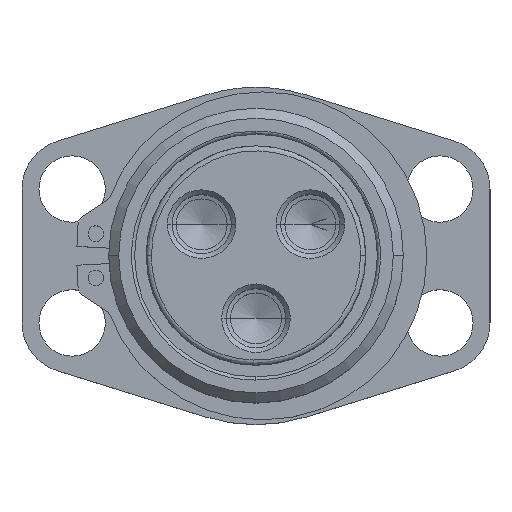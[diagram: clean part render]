
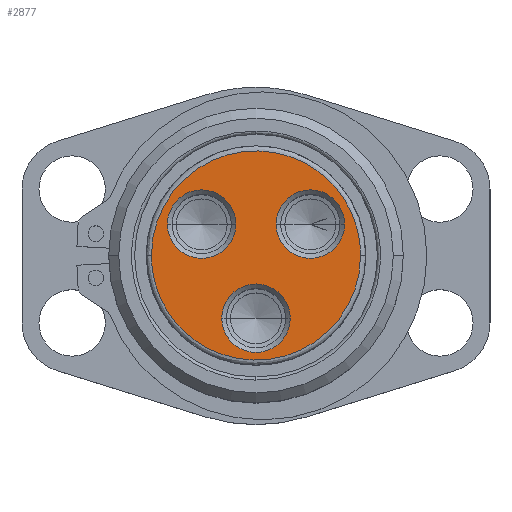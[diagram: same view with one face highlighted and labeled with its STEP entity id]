
A CAD part, top view. The second image highlights one B-rep face of the part: STEP entity #2877.
In plain terms, the highlighted planar face has unit normal (0, 0, 1).
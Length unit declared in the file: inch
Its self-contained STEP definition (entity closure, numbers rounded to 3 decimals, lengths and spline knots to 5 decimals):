
#8 = CARTESIAN_POINT ( 'NONE',  ( -0.43301, 0.25, 0. ) ) ;
#47 = DIRECTION ( 'NONE',  ( 0., 0., -1. ) ) ;
#83 = CARTESIAN_POINT ( 'NONE',  ( 0., 0., 0. ) ) ;
#107 = AXIS2_PLACEMENT_3D ( 'NONE', #2507, #4762, #241 ) ;
#140 = PLANE ( 'NONE',  #2765 ) ;
#149 = CARTESIAN_POINT ( 'NONE',  ( 0.43301, 0.25, 0. ) ) ;
#241 = DIRECTION ( 'NONE',  ( 1., 0., 0. ) ) ;
#276 = CIRCLE ( 'NONE', #1835, 0.2731 ) ;
#355 = CARTESIAN_POINT ( 'NONE',  ( -0.8341, 0., 0. ) ) ;
#385 = CARTESIAN_POINT ( 'NONE',  ( 0.8341, -1.6682, 0. ) ) ;
#433 = ORIENTED_EDGE ( 'NONE', *, *, #509, .T. ) ;
#451 = AXIS2_PLACEMENT_3D ( 'NONE', #3121, #1986, #4619 ) ;
#453 = CARTESIAN_POINT ( 'NONE',  ( -0.15991, 0.25, 0. ) ) ;
#479 = ORIENTED_EDGE ( 'NONE', *, *, #4875, .T. ) ;
#489 = VERTEX_POINT ( 'NONE', #2667 ) ;
#493 = CIRCLE ( 'NONE', #3787, 0.2731 ) ;
#509 = EDGE_CURVE ( 'NONE', #1667, #4034, #493, .T. ) ;
#563 = ORIENTED_EDGE ( 'NONE', *, *, #2493, .F. ) ;
#586 = CARTESIAN_POINT ( 'NONE',  ( -0.43301, 0.25, 0. ) ) ;
#592 = CARTESIAN_POINT ( 'NONE',  ( 0.70611, 0.25, 0. ) ) ;
#737 = ORIENTED_EDGE ( 'NONE', *, *, #3971, .T. ) ;
#753 = VERTEX_POINT ( 'NONE', #592 ) ;
#799 = CIRCLE ( 'NONE', #107, 0.2731 ) ;
#967 = FACE_BOUND ( 'NONE', #2231, .T. ) ;
#1424 = EDGE_CURVE ( 'NONE', #4077, #2606, #3610, .T. ) ;
#1619 = DIRECTION ( 'NONE',  ( 1., 0., 0. ) ) ;
#1645 = EDGE_CURVE ( 'NONE', #2948, #3692, #1706, .T. ) ;
#1649 = CARTESIAN_POINT ( 'NONE',  ( 0.8341, 0., 0. ) ) ;
#1667 = VERTEX_POINT ( 'NONE', #2405 ) ;
#1706 =( BOUNDED_CURVE ( )  B_SPLINE_CURVE ( 3, ( #3875, #4300, #4280, #4627 ),
 .UNSPECIFIED., .F., .F. ) 
 B_SPLINE_CURVE_WITH_KNOTS ( ( 4, 4 ),
 ( 0., 1. ),
 .UNSPECIFIED. ) 
 CURVE ( )  GEOMETRIC_REPRESENTATION_ITEM ( )  RATIONAL_B_SPLINE_CURVE ( ( 1., 0.333, 0.333, 1. ) ) 
 REPRESENTATION_ITEM ( '' )  );
#1718 = CARTESIAN_POINT ( 'NONE',  ( -0.2731, -0.5, 0. ) ) ;
#1777 = EDGE_LOOP ( 'NONE', ( #2728, #563 ) ) ;
#1835 = AXIS2_PLACEMENT_3D ( 'NONE', #149, #2792, #3535 ) ;
#1913 = CIRCLE ( 'NONE', #4895, 0.2731 ) ;
#1926 = FACE_BOUND ( 'NONE', #4864, .T. ) ;
#1986 = DIRECTION ( 'NONE',  ( 0., 0., -1. ) ) ;
#2231 = EDGE_LOOP ( 'NONE', ( #3245, #433 ) ) ;
#2405 = CARTESIAN_POINT ( 'NONE',  ( -0.70611, 0.25, 0. ) ) ;
#2493 = EDGE_CURVE ( 'NONE', #3692, #2948, #3687, .T. ) ;
#2507 = CARTESIAN_POINT ( 'NONE',  ( 0.43301, 0.25, 0. ) ) ;
#2606 = VERTEX_POINT ( 'NONE', #1718 ) ;
#2624 = CARTESIAN_POINT ( 'NONE',  ( -0.8341, -1.6682, 0. ) ) ;
#2667 = CARTESIAN_POINT ( 'NONE',  ( 0.15991, 0.25, 0. ) ) ;
#2728 = ORIENTED_EDGE ( 'NONE', *, *, #1645, .F. ) ;
#2765 = AXIS2_PLACEMENT_3D ( 'NONE', #83, #4610, #1619 ) ;
#2792 = DIRECTION ( 'NONE',  ( 0., 0., -1. ) ) ;
#2877 = ADVANCED_FACE ( 'NONE', ( #3511, #4056, #1926, #967 ), #140, .T. ) ;
#2948 = VERTEX_POINT ( 'NONE', #3991 ) ;
#3121 = CARTESIAN_POINT ( 'NONE',  ( 0., -0.5, 0. ) ) ;
#3126 = AXIS2_PLACEMENT_3D ( 'NONE', #586, #4060, #4726 ) ;
#3245 = ORIENTED_EDGE ( 'NONE', *, *, #4222, .T. ) ;
#3274 = CIRCLE ( 'NONE', #3126, 0.2731 ) ;
#3400 = CARTESIAN_POINT ( 'NONE',  ( 0.8341, 0., 0. ) ) ;
#3511 = FACE_OUTER_BOUND ( 'NONE', #1777, .T. ) ;
#3535 = DIRECTION ( 'NONE',  ( 1., 0., 0. ) ) ;
#3588 = CARTESIAN_POINT ( 'NONE',  ( 0.2731, -0.5, 0. ) ) ;
#3610 = CIRCLE ( 'NONE', #451, 0.2731 ) ;
#3687 =( BOUNDED_CURVE ( )  B_SPLINE_CURVE ( 3, ( #3400, #385, #2624, #355 ),
 .UNSPECIFIED., .F., .T. ) 
 B_SPLINE_CURVE_WITH_KNOTS ( ( 4, 4 ),
 ( 0., 1. ),
 .UNSPECIFIED. ) 
 CURVE ( )  GEOMETRIC_REPRESENTATION_ITEM ( )  RATIONAL_B_SPLINE_CURVE ( ( 1., 0.333, 0.333, 1. ) ) 
 REPRESENTATION_ITEM ( '' )  );
#3692 = VERTEX_POINT ( 'NONE', #1649 ) ;
#3787 = AXIS2_PLACEMENT_3D ( 'NONE', #8, #4245, #4576 ) ;
#3875 = CARTESIAN_POINT ( 'NONE',  ( -0.8341, 0., 0. ) ) ;
#3971 = EDGE_CURVE ( 'NONE', #2606, #4077, #1913, .T. ) ;
#3991 = CARTESIAN_POINT ( 'NONE',  ( -0.8341, 0., 0. ) ) ;
#4034 = VERTEX_POINT ( 'NONE', #453 ) ;
#4056 = FACE_BOUND ( 'NONE', #4788, .T. ) ;
#4060 = DIRECTION ( 'NONE',  ( 0., 0., -1. ) ) ;
#4077 = VERTEX_POINT ( 'NONE', #3588 ) ;
#4125 = ORIENTED_EDGE ( 'NONE', *, *, #1424, .T. ) ;
#4222 = EDGE_CURVE ( 'NONE', #4034, #1667, #3274, .T. ) ;
#4241 = CARTESIAN_POINT ( 'NONE',  ( 0., -0.5, 0. ) ) ;
#4245 = DIRECTION ( 'NONE',  ( 0., 0., -1. ) ) ;
#4280 = CARTESIAN_POINT ( 'NONE',  ( 0.8341, 1.6682, 0. ) ) ;
#4300 = CARTESIAN_POINT ( 'NONE',  ( -0.8341, 1.6682, 0. ) ) ;
#4436 = ORIENTED_EDGE ( 'NONE', *, *, #4490, .T. ) ;
#4490 = EDGE_CURVE ( 'NONE', #489, #753, #276, .T. ) ;
#4576 = DIRECTION ( 'NONE',  ( 1., 0., 0. ) ) ;
#4610 = DIRECTION ( 'NONE',  ( 0., 0., 1. ) ) ;
#4619 = DIRECTION ( 'NONE',  ( 1., 0., 0. ) ) ;
#4622 = DIRECTION ( 'NONE',  ( 1., 0., 0. ) ) ;
#4627 = CARTESIAN_POINT ( 'NONE',  ( 0.8341, 0., 0. ) ) ;
#4726 = DIRECTION ( 'NONE',  ( 1., 0., 0. ) ) ;
#4762 = DIRECTION ( 'NONE',  ( 0., 0., -1. ) ) ;
#4788 = EDGE_LOOP ( 'NONE', ( #4125, #737 ) ) ;
#4864 = EDGE_LOOP ( 'NONE', ( #479, #4436 ) ) ;
#4875 = EDGE_CURVE ( 'NONE', #753, #489, #799, .T. ) ;
#4895 = AXIS2_PLACEMENT_3D ( 'NONE', #4241, #47, #4622 ) ;
